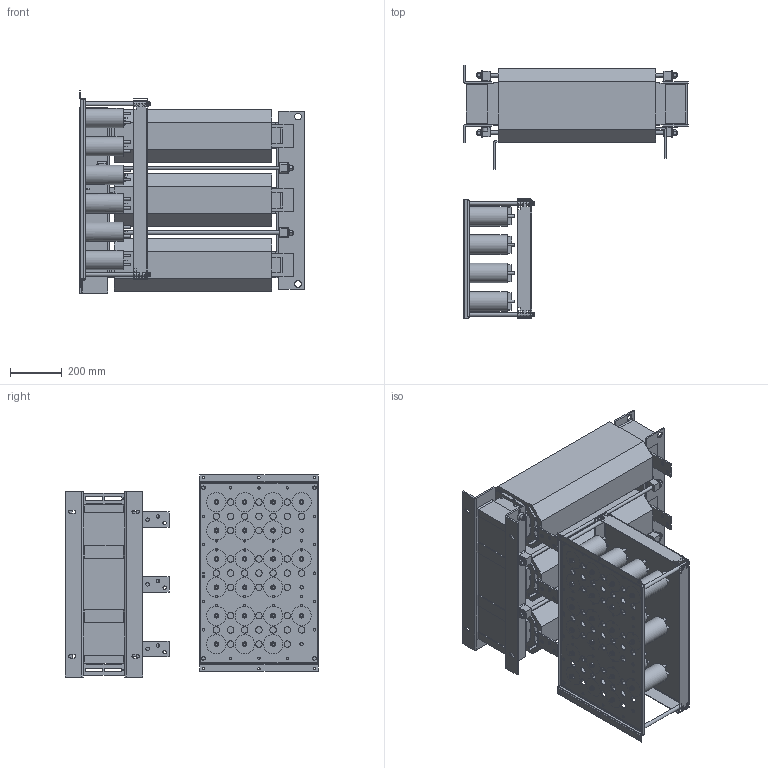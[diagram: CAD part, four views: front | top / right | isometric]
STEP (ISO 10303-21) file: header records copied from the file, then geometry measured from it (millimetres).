
FILE_DESCRIPTION(/* description */ ('raw material description','CAx-IF Rec.Pracs.---Representation and Presentation of Product Manufacturing Information (PMI)---3.8---2014-02-18'),/* implementation_level */ '2;1');
FILE_NAME(/* name */ 'C:\Users\Oliver.Volic\Desktop\FN5040HV-765-99.stp',/* time_stamp */ '2020-02-19T10:29:16+01:00',/* author */ ('Oliver.Volic'),/* organization */ ('Schaffner EMV AG'),/* preprocessor_version */ 'ST-DEVELOPER v16.5',/* originating_system */ 'Autodesk Inventor 2017',/* authorisation */ '');
FILE_SCHEMA (('AP242_MANAGED_MODEL_BASED_3D_ENGINEERING_MIM_LF { 1 0 10303 442 1 1 4 }'));
Products named in the file (1): FN5040HV-765-99
Bounding box: 871 x 981.65 x 782.18 mm (x, y, z)
Volume: 114479903.7 mm3; surface area: 10497984.2 mm2
Topology: 8 solids, 8 shells, 2812 faces, 7583 edges, 4871 vertices
Faces by surface type: plane 1923, cylinder 686, cone 179, torus 12, bspline 12
Full cylindrical faces by diameter (mm): 6 x1, 8 x4, 8.5 x6, 9 x38, 10 x43, 10.5 x3, 11.883 x1, 12 x44, 12.611 x8, 13 x11, 13.5 x12, 14 x11, 15 x4, 18 x4, 22 x1, 24 x8, 25 x43, 37 x8, 75 x21
Entity records: 88906 total; most frequent: CARTESIAN_POINT 16375, ORIENTED_EDGE 14204, DIRECTION 13968, EDGE_CURVE 7098, LINE 4882, VECTOR 4882, VERTEX_POINT 4784, AXIS2_PLACEMENT_3D 4543
